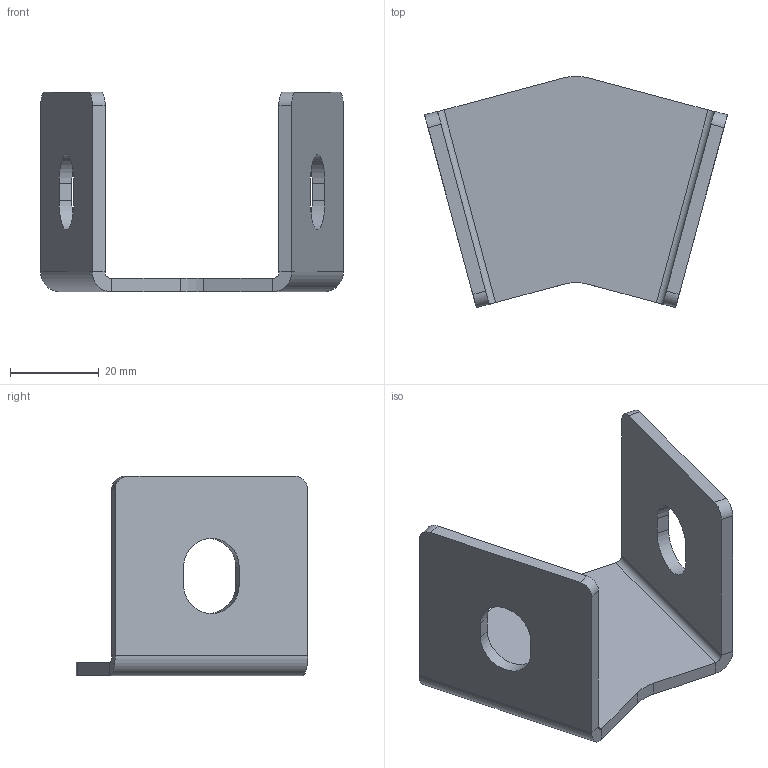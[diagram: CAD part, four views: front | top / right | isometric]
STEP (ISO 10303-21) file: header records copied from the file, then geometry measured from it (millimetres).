
FILE_DESCRIPTION (( 'STEP AP214' ), '1' );
FILE_NAME ('454530.STEP', '2018-03-02T14:15:46', ( '' ), ( '' ), 'SwSTEP 2.0', 'SolidWorks 2014', '' );
FILE_SCHEMA (( 'AUTOMOTIVE_DESIGN' ));
Length unit declared in the file: millimetre
Products named in the file (2): 454530
Bounding box: 68.29 x 52.23 x 45 mm (x, y, z)
Volume: 17777.9 mm3; surface area: 13239.2 mm2
Topology: 1 solids, 1 shells, 38 faces, 92 edges, 56 vertices
Faces by surface type: plane 24, cylinder 14
Entity records: 1153 total; most frequent: DIRECTION 200, CARTESIAN_POINT 188, ORIENTED_EDGE 184, EDGE_CURVE 92, AXIS2_PLACEMENT_3D 68, LINE 64, VECTOR 64, VERTEX_POINT 56
